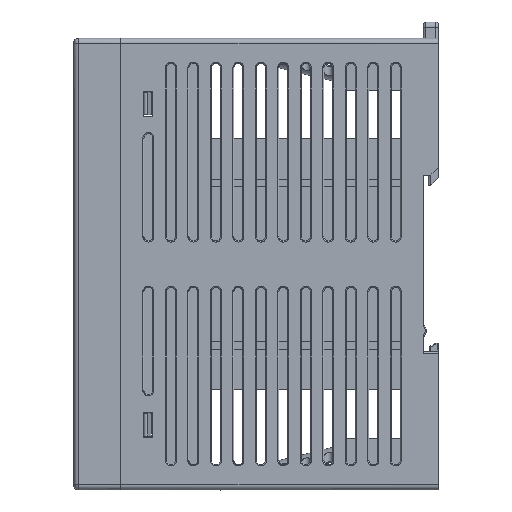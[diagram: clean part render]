
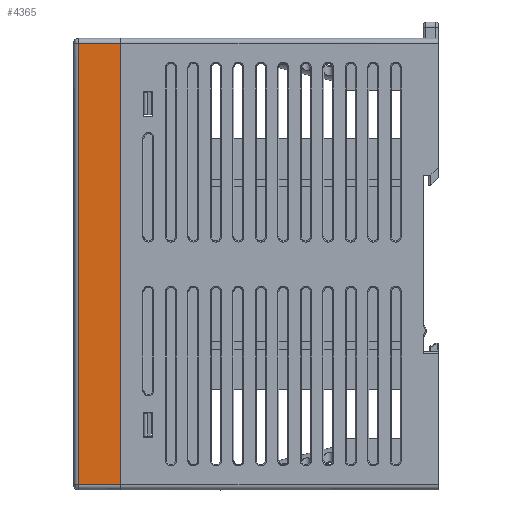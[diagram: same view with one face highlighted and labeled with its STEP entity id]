
A CAD part, left-side view. The second image highlights one B-rep face of the part: STEP entity #4365.
In plain terms, the highlighted planar face has unit normal (-1, 0, 0).
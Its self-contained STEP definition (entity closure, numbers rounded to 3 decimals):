
#4365=ADVANCED_FACE('',(#6060),#43336,.T.);
#6060=FACE_OUTER_BOUND('',#7656,.T.);
#7656=EDGE_LOOP('',(#10005,#10006,#10007,#10008));
#10005=ORIENTED_EDGE('',*,*,#18533,.T.);
#10006=ORIENTED_EDGE('',*,*,#18534,.T.);
#10007=ORIENTED_EDGE('',*,*,#18535,.T.);
#10008=ORIENTED_EDGE('',*,*,#18536,.T.);
#18533=EDGE_CURVE('',#35589,#35590,#29458,.T.);
#18534=EDGE_CURVE('',#35590,#35591,#29459,.T.);
#18535=EDGE_CURVE('',#35591,#35592,#29460,.T.);
#18536=EDGE_CURVE('',#35592,#35589,#29461,.T.);
#29458=B_SPLINE_CURVE_WITH_KNOTS('',1,(#52471,#52472),.UNSPECIFIED.,.F.,
 .F.,(2,2),(0.,8.4),.UNSPECIFIED.);
#29459=B_SPLINE_CURVE_WITH_KNOTS('',1,(#52473,#52474),.UNSPECIFIED.,.F.,
 .F.,(2,2),(0.,88.),.UNSPECIFIED.);
#29460=B_SPLINE_CURVE_WITH_KNOTS('',1,(#52475,#52476),.UNSPECIFIED.,.F.,
 .F.,(2,2),(0.,8.4),.UNSPECIFIED.);
#29461=B_SPLINE_CURVE_WITH_KNOTS('',1,(#52477,#52478),.UNSPECIFIED.,.F.,
 .F.,(2,2),(0.,88.),.UNSPECIFIED.);
#35589=VERTEX_POINT('',#52467);
#35590=VERTEX_POINT('',#52468);
#35591=VERTEX_POINT('',#52469);
#35592=VERTEX_POINT('',#52470);
#43336=PLANE('',#44317);
#44317=AXIS2_PLACEMENT_3D('',#52466,#45572,$);
#45572=DIRECTION('',(-1.,0.,0.));
#52466=CARTESIAN_POINT('',(-12.5,72.69,-52.95));
#52467=CARTESIAN_POINT('',(-12.5,71.7,-44.));
#52468=CARTESIAN_POINT('',(-12.5,63.3,-44.));
#52469=CARTESIAN_POINT('',(-12.5,63.3,44.));
#52470=CARTESIAN_POINT('',(-12.5,71.7,44.));
#52471=CARTESIAN_POINT('',(-12.5,71.7,-44.));
#52472=CARTESIAN_POINT('',(-12.5,63.3,-44.));
#52473=CARTESIAN_POINT('',(-12.5,63.3,-44.));
#52474=CARTESIAN_POINT('',(-12.5,63.3,44.));
#52475=CARTESIAN_POINT('',(-12.5,63.3,44.));
#52476=CARTESIAN_POINT('',(-12.5,71.7,44.));
#52477=CARTESIAN_POINT('',(-12.5,71.7,44.));
#52478=CARTESIAN_POINT('',(-12.5,71.7,-44.));
